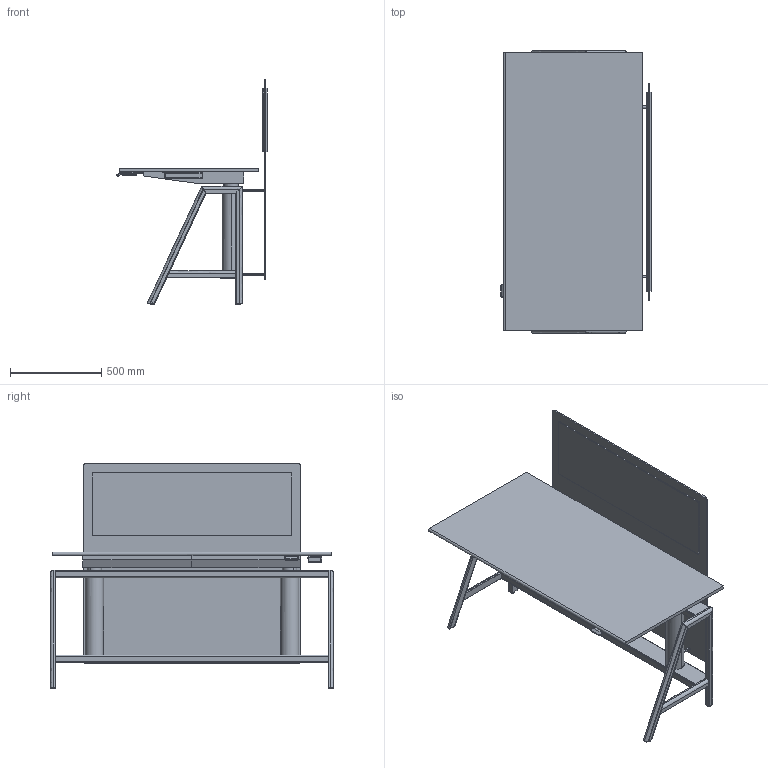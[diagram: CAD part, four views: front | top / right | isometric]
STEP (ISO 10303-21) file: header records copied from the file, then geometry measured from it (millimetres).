
FILE_DESCRIPTION(/* description */ (''),/* implementation_level */ '2;1');
FILE_NAME(/* name */ 'IOCPRO~1',/* time_stamp */ '2023-06-05T11:46:31+02:00',/* author */ (''),/* organization */ (''),/* preprocessor_version */ 'ST-DEVELOPER v16.5',/* originating_system */ '',/* authorisation */ '');
FILE_SCHEMA (('AUTOMOTIVE_DESIGN'));
Products named in the file (1): Document
Bounding box: 824.99 x 1551 x 1237.36 mm (x, y, z)
Volume: 96199319.8 mm3; surface area: 14044359 mm2
Topology: 32 solids, 39 shells, 2446 faces, 6248 edges, 3887 vertices
Faces by surface type: bspline 1622, plane 824
Entity records: 147587 total; most frequent: CARTESIAN_POINT 111016, ORIENTED_EDGE 12318, EDGE_CURVE 6200, VERTEX_POINT 3887, B_SPLINE_CURVE_WITH_KNOTS 3664, EDGE_LOOP 2556, ADVANCED_FACE 2446, FACE_OUTER_BOUND 2446
